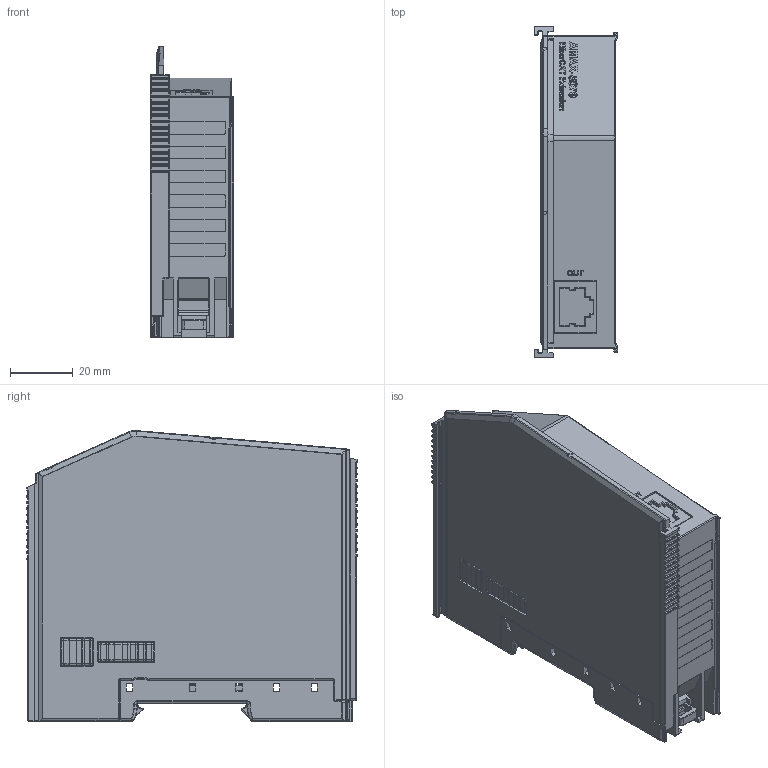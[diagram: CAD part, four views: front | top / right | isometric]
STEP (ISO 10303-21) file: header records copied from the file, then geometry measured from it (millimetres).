
FILE_DESCRIPTION (( 'STEP AP203' ), '1' );
FILE_NAME ('assy_AMAX-5079.STEP', '2020-05-12T07:20:46', ( '' ), ( '' ), 'SwSTEP 2.0', 'SolidWorks 2018', '' );
FILE_SCHEMA (( 'CONFIG_CONTROL_DESIGN' ));
Products named in the file (1): assy_AMAX-5079
Bounding box: 26.55 x 105.9 x 93.01 mm (x, y, z)
Volume: 172402.2 mm3; surface area: 47469.9 mm2
Topology: 1 solids, 10 shells, 3116 faces, 8138 edges, 4821 vertices
Faces by surface type: plane 1618, cylinder 789, bspline 337, torus 188, sphere 162, cone 22
Entity records: 104630 total; most frequent: CARTESIAN_POINT 31812, ORIENTED_EDGE 15752, DIRECTION 14227, EDGE_CURVE 7876, VECTOR 5417, LINE 5417, VERTEX_POINT 4821, AXIS2_PLACEMENT_3D 4405
